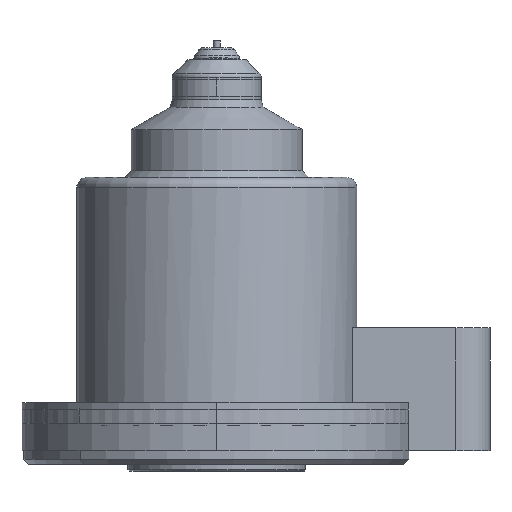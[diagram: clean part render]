
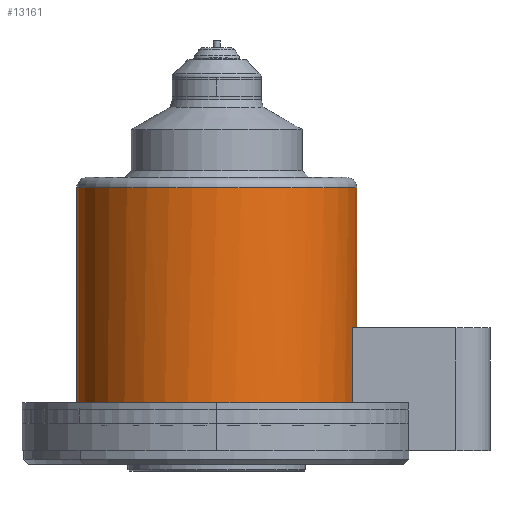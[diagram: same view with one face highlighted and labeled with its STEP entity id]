
A CAD part, front view. The second image highlights one B-rep face of the part: STEP entity #13161.
In plain terms, the highlighted cylindrical face has radius 41 mm (diameter 82 mm), a partial arc.
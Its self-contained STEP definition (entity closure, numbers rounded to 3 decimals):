
#129 = CIRCLE ( 'NONE', #7091, 41. ) ;
#135 = LINE ( 'NONE', #8458, #136 ) ;
#136 = VECTOR ( 'NONE', #8459, 1000. ) ;
#170 = LINE ( 'NONE', #8525, #171 ) ;
#171 = VECTOR ( 'NONE', #8526, 1000. ) ;
#664 = VECTOR ( 'NONE', #4188, 1000. ) ;
#671 = CIRCLE ( 'NONE', #6718, 41. ) ;
#673 = CIRCLE ( 'NONE', #6633, 41. ) ;
#679 = LINE ( 'NONE', #4113, #664 ) ;
#1111 = EDGE_CURVE ( 'NONE', #10053, #10169, #129, .T. ) ;
#1115 = EDGE_CURVE ( 'NONE', #10217, #10142, #135, .T. ) ;
#1138 = EDGE_CURVE ( 'NONE', #10197, #10169, #170, .T. ) ;
#1505 = EDGE_CURVE ( 'NONE', #10152, #10053, #679, .T. ) ;
#1510 = EDGE_CURVE ( 'NONE', #10197, #10217, #671, .T. ) ;
#1512 = EDGE_CURVE ( 'NONE', #10152, #10142, #673, .T. ) ;
#4113 = CARTESIAN_POINT ( 'NONE',  ( 39.762, -10., 0. ) ) ;
#4188 = DIRECTION ( 'NONE',  ( 0., 0., 1. ) ) ;
#4199 = DIRECTION ( 'NONE',  ( -1., 0., 0. ) ) ;
#4200 = CARTESIAN_POINT ( 'NONE',  ( 0., 0., 83. ) ) ;
#4201 = DIRECTION ( 'NONE',  ( 0., 0., -1. ) ) ;
#4204 = DIRECTION ( 'NONE',  ( 0., 1., 0. ) ) ;
#4205 = CARTESIAN_POINT ( 'NONE',  ( 0., 0., 20. ) ) ;
#4206 = DIRECTION ( 'NONE',  ( 0., 0., -1. ) ) ;
#4969 = ORIENTED_EDGE ( 'NONE', *, *, #1138, .F. ) ;
#5149 = ORIENTED_EDGE ( 'NONE', *, *, #1510, .T. ) ;
#5246 = EDGE_LOOP ( 'NONE', ( #4969, #5149, #5394, #5480, #5489, #5504 ) ) ;
#5394 = ORIENTED_EDGE ( 'NONE', *, *, #1115, .T. ) ;
#5480 = ORIENTED_EDGE ( 'NONE', *, *, #1512, .F. ) ;
#5489 = ORIENTED_EDGE ( 'NONE', *, *, #1505, .T. ) ;
#5504 = ORIENTED_EDGE ( 'NONE', *, *, #1111, .T. ) ;
#6633 = AXIS2_PLACEMENT_3D ( 'NONE', #4205, #4206, #4204 ) ;
#6718 = AXIS2_PLACEMENT_3D ( 'NONE', #4200, #4201, #4199 ) ;
#7091 = AXIS2_PLACEMENT_3D ( 'NONE', #8449, #8450, #8451 ) ;
#7500 = AXIS2_PLACEMENT_3D ( 'NONE', #12670, #12602, #12483 ) ;
#8449 = CARTESIAN_POINT ( 'NONE',  ( 0., 0., 42. ) ) ;
#8450 = DIRECTION ( 'NONE',  ( 0., 0., 1. ) ) ;
#8451 = DIRECTION ( 'NONE',  ( 1., 0., 0. ) ) ;
#8458 = CARTESIAN_POINT ( 'NONE',  ( -41., 0., 0. ) ) ;
#8459 = DIRECTION ( 'NONE',  ( 0., 0., -1. ) ) ;
#8525 = CARTESIAN_POINT ( 'NONE',  ( 41., 0., 0. ) ) ;
#8526 = DIRECTION ( 'NONE',  ( 0., 0., -1. ) ) ;
#10053 = VERTEX_POINT ( 'NONE', #11695 ) ;
#10142 = VERTEX_POINT ( 'NONE', #11672 ) ;
#10152 = VERTEX_POINT ( 'NONE', #11782 ) ;
#10169 = VERTEX_POINT ( 'NONE', #11297 ) ;
#10197 = VERTEX_POINT ( 'NONE', #11006 ) ;
#10217 = VERTEX_POINT ( 'NONE', #11670 ) ;
#11006 = CARTESIAN_POINT ( 'NONE',  ( 41., 0., 83. ) ) ;
#11297 = CARTESIAN_POINT ( 'NONE',  ( 41., 0., 42. ) ) ;
#11670 = CARTESIAN_POINT ( 'NONE',  ( -41., 0., 83. ) ) ;
#11672 = CARTESIAN_POINT ( 'NONE',  ( -41., 0., 20. ) ) ;
#11695 = CARTESIAN_POINT ( 'NONE',  ( 39.762, -10., 42. ) ) ;
#11782 = CARTESIAN_POINT ( 'NONE',  ( 39.762, -10., 20. ) ) ;
#12483 = DIRECTION ( 'NONE',  ( -1., 0., 0. ) ) ;
#12602 = DIRECTION ( 'NONE',  ( 0., 0., -1. ) ) ;
#12670 = CARTESIAN_POINT ( 'NONE',  ( 0., 0., 0. ) ) ;
#13161 = ADVANCED_FACE ( 'NONE', ( #13575 ), #13590, .T. ) ;
#13575 = FACE_OUTER_BOUND ( 'NONE', #5246, .T. ) ;
#13590 = CYLINDRICAL_SURFACE ( 'NONE', #7500, 41. ) ;
